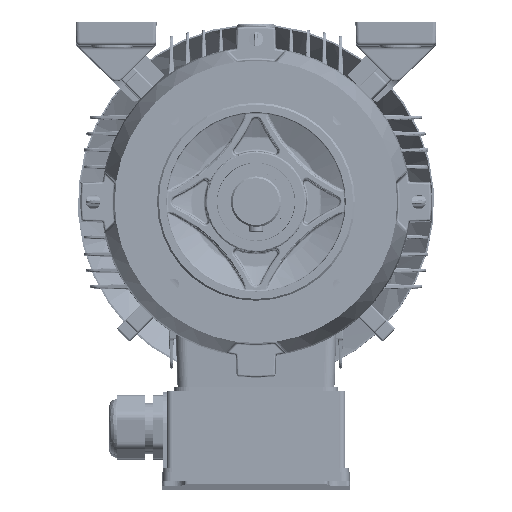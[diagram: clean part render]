
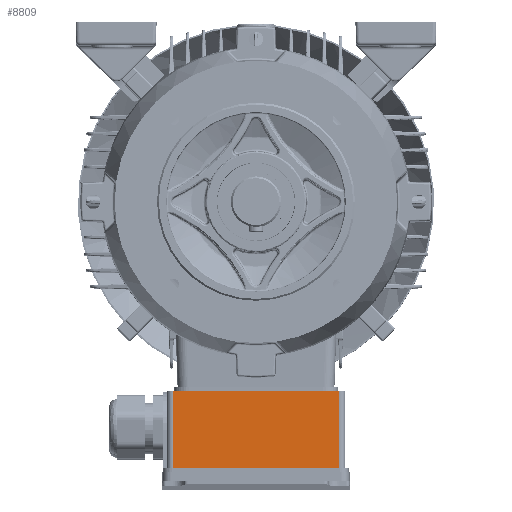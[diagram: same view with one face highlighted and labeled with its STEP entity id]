
A CAD part, top view. The second image highlights one B-rep face of the part: STEP entity #8809.
In plain terms, the highlighted planar face has unit normal (0, 0, 1) as drawn and (-1, 0, 0) by its records, which use the part's own axes.
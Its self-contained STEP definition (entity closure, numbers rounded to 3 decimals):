
#8809 = ADVANCED_FACE ( 'NONE', ( #200901 ), #215522, .F. ) ;
#13718 = CARTESIAN_POINT ( 'NONE',  ( -49.488, 43., -46.126 ) ) ;
#13728 = CARTESIAN_POINT ( 'NONE',  ( -49.488, 0., -46.126 ) ) ;
#14048 = CARTESIAN_POINT ( 'NONE',  ( -49.488, 0., 46.126 ) ) ;
#14068 = CARTESIAN_POINT ( 'NONE',  ( -49.488, 43., 46.126 ) ) ;
#23492 = ORIENTED_EDGE ( 'NONE', *, *, #171773, .F. ) ;
#23494 = ORIENTED_EDGE ( 'NONE', *, *, #172799, .T. ) ;
#23496 = ORIENTED_EDGE ( 'NONE', *, *, #172795, .F. ) ;
#23499 = ORIENTED_EDGE ( 'NONE', *, *, #172802, .T. ) ;
#66257 = VERTEX_POINT ( 'NONE', #13718 ) ;
#66268 = VERTEX_POINT ( 'NONE', #13728 ) ;
#66735 = VERTEX_POINT ( 'NONE', #14048 ) ;
#66770 = VERTEX_POINT ( 'NONE', #14068 ) ;
#147794 = LINE ( 'NONE', #175143, #147800 ) ;
#147800 = VECTOR ( 'NONE', #175138, 1000. ) ;
#149673 = LINE ( 'NONE', #183516, #149717 ) ;
#149692 = LINE ( 'NONE', #183505, #149699 ) ;
#149695 = LINE ( 'NONE', #183525, #149707 ) ;
#149699 = VECTOR ( 'NONE', #183508, 1000. ) ;
#149707 = VECTOR ( 'NONE', #183528, 1000. ) ;
#149717 = VECTOR ( 'NONE', #183530, 1000. ) ;
#155735 = AXIS2_PLACEMENT_3D ( 'NONE', #215514, #215528, #215531 ) ;
#168603 = EDGE_LOOP ( 'NONE', ( #23492, #23494, #23496, #23499 ) ) ;
#171773 = EDGE_CURVE ( 'NONE', #66268, #66257, #147794, .T. ) ;
#172795 = EDGE_CURVE ( 'NONE', #66770, #66735, #149692, .T. ) ;
#172799 = EDGE_CURVE ( 'NONE', #66268, #66735, #149695, .T. ) ;
#172802 = EDGE_CURVE ( 'NONE', #66770, #66257, #149673, .T. ) ;
#175138 = DIRECTION ( 'NONE',  ( 0., 1., 0. ) ) ;
#175143 = CARTESIAN_POINT ( 'NONE',  ( -49.488, 47., -46.126 ) ) ;
#183505 = CARTESIAN_POINT ( 'NONE',  ( -49.488, 47., 46.126 ) ) ;
#183508 = DIRECTION ( 'NONE',  ( 0., -1., 0. ) ) ;
#183516 = CARTESIAN_POINT ( 'NONE',  ( -49.488, 43., -46.512 ) ) ;
#183525 = CARTESIAN_POINT ( 'NONE',  ( -49.488, 0., -46.512 ) ) ;
#183528 = DIRECTION ( 'NONE',  ( 0., 0., 1. ) ) ;
#183530 = DIRECTION ( 'NONE',  ( 0., 0., -1. ) ) ;
#200901 = FACE_OUTER_BOUND ( 'NONE', #168603, .T. ) ;
#215514 = CARTESIAN_POINT ( 'NONE',  ( -49.488, 47., 46.126 ) ) ;
#215522 = PLANE ( 'NONE',  #155735 ) ;
#215528 = DIRECTION ( 'NONE',  ( 1., 0., 0. ) ) ;
#215531 = DIRECTION ( 'NONE',  ( 0., 0., -1. ) ) ;
